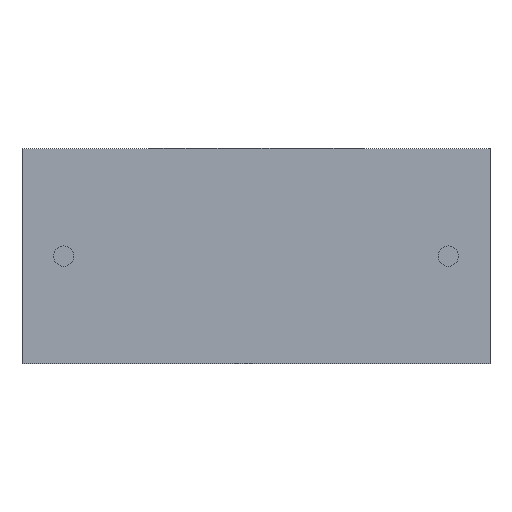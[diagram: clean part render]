
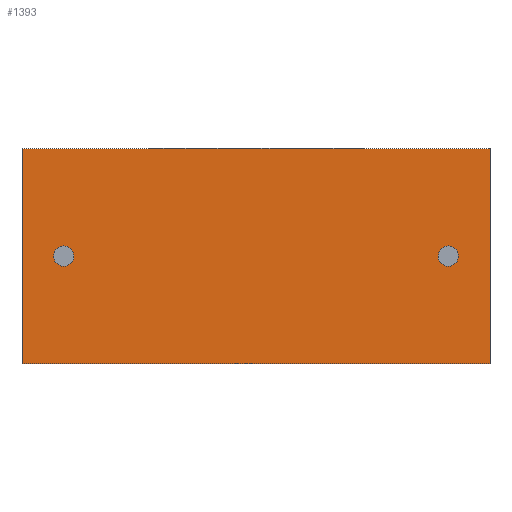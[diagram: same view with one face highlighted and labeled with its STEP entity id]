
A CAD part, front view. The second image highlights one B-rep face of the part: STEP entity #1393.
In plain terms, the highlighted planar face has unit normal (0, -1, 0).
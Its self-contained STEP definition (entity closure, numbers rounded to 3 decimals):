
#27 = DIRECTION ( 'NONE',  ( 0., 0., 1. ) ) ;
#50 = EDGE_LOOP ( 'NONE', ( #1909, #2413 ) ) ;
#65 = CARTESIAN_POINT ( 'NONE',  ( 1.65, 0., 4.25 ) ) ;
#69 = FACE_OUTER_BOUND ( 'NONE', #1485, .T. ) ;
#81 = CARTESIAN_POINT ( 'NONE',  ( 16.85, 0., 3.85 ) ) ;
#155 = CARTESIAN_POINT ( 'NONE',  ( 18.5, 0., 8.5 ) ) ;
#269 = CARTESIAN_POINT ( 'NONE',  ( 0., 0., 0. ) ) ;
#275 = CARTESIAN_POINT ( 'NONE',  ( 1.65, 0., 4.65 ) ) ;
#280 = CARTESIAN_POINT ( 'NONE',  ( 0., 0., 8.5 ) ) ;
#290 = CARTESIAN_POINT ( 'NONE',  ( 0., 0., 8.5 ) ) ;
#300 = VERTEX_POINT ( 'NONE', #290 ) ;
#306 = EDGE_CURVE ( 'NONE', #300, #802, #2412, .T. ) ;
#307 = DIRECTION ( 'NONE',  ( 0., -1., 0. ) ) ;
#362 = AXIS2_PLACEMENT_3D ( 'NONE', #1456, #307, #1105 ) ;
#436 = CARTESIAN_POINT ( 'NONE',  ( 16.85, 0., 4.25 ) ) ;
#437 = DIRECTION ( 'NONE',  ( 0., -1., 0. ) ) ;
#449 = CARTESIAN_POINT ( 'NONE',  ( 16.85, 0., 4.25 ) ) ;
#563 = ORIENTED_EDGE ( 'NONE', *, *, #1441, .F. ) ;
#567 = EDGE_CURVE ( 'NONE', #802, #935, #1873, .T. ) ;
#650 = CIRCLE ( 'NONE', #1901, 0.4 ) ;
#682 = EDGE_CURVE ( 'NONE', #1001, #1182, #1721, .T. ) ;
#802 = VERTEX_POINT ( 'NONE', #269 ) ;
#876 = FACE_BOUND ( 'NONE', #2385, .T. ) ;
#884 = ORIENTED_EDGE ( 'NONE', *, *, #1515, .F. ) ;
#886 = VECTOR ( 'NONE', #1361, 1000. ) ;
#916 = FACE_BOUND ( 'NONE', #50, .T. ) ;
#931 = DIRECTION ( 'NONE',  ( 0., 0., 1. ) ) ;
#935 = VERTEX_POINT ( 'NONE', #1493 ) ;
#939 = DIRECTION ( 'NONE',  ( 0., 0., -1. ) ) ;
#981 = CARTESIAN_POINT ( 'NONE',  ( 0., 0., 0. ) ) ;
#1001 = VERTEX_POINT ( 'NONE', #1067 ) ;
#1033 = DIRECTION ( 'NONE',  ( 1., 0., 0. ) ) ;
#1067 = CARTESIAN_POINT ( 'NONE',  ( 1.65, 0., 3.85 ) ) ;
#1076 = CIRCLE ( 'NONE', #2146, 0.4 ) ;
#1105 = DIRECTION ( 'NONE',  ( 0., 0., 1. ) ) ;
#1110 = ORIENTED_EDGE ( 'NONE', *, *, #2287, .F. ) ;
#1182 = VERTEX_POINT ( 'NONE', #275 ) ;
#1253 = DIRECTION ( 'NONE',  ( 0., 0., -1. ) ) ;
#1288 = VERTEX_POINT ( 'NONE', #1433 ) ;
#1289 = DIRECTION ( 'NONE',  ( 0., 1., 0. ) ) ;
#1350 = VECTOR ( 'NONE', #1421, 1000. ) ;
#1361 = DIRECTION ( 'NONE',  ( 1., 0., 0. ) ) ;
#1393 = ADVANCED_FACE ( 'NONE', ( #916, #69, #876 ), #2037, .F. ) ;
#1416 = DIRECTION ( 'NONE',  ( 0., 1., 0. ) ) ;
#1421 = DIRECTION ( 'NONE',  ( 0., 0., -1. ) ) ;
#1433 = CARTESIAN_POINT ( 'NONE',  ( 16.85, 0., 4.65 ) ) ;
#1441 = EDGE_CURVE ( 'NONE', #1182, #1001, #2092, .T. ) ;
#1456 = CARTESIAN_POINT ( 'NONE',  ( 1.65, 0., 4.25 ) ) ;
#1463 = VECTOR ( 'NONE', #1033, 1000. ) ;
#1485 = EDGE_LOOP ( 'NONE', ( #2180, #884, #1110, #2109 ) ) ;
#1493 = CARTESIAN_POINT ( 'NONE',  ( 18.5, 0., 0. ) ) ;
#1504 = LINE ( 'NONE', #2416, #2286 ) ;
#1509 = LINE ( 'NONE', #2130, #1463 ) ;
#1515 = EDGE_CURVE ( 'NONE', #1927, #935, #1504, .T. ) ;
#1521 = AXIS2_PLACEMENT_3D ( 'NONE', #1850, #1289, #931 ) ;
#1630 = EDGE_CURVE ( 'NONE', #2299, #1288, #650, .T. ) ;
#1721 = CIRCLE ( 'NONE', #2339, 0.4 ) ;
#1729 = EDGE_CURVE ( 'NONE', #1288, #2299, #1076, .T. ) ;
#1850 = CARTESIAN_POINT ( 'NONE',  ( 0., 0., 8.5 ) ) ;
#1873 = LINE ( 'NONE', #981, #886 ) ;
#1901 = AXIS2_PLACEMENT_3D ( 'NONE', #449, #2333, #2154 ) ;
#1909 = ORIENTED_EDGE ( 'NONE', *, *, #1729, .T. ) ;
#1927 = VERTEX_POINT ( 'NONE', #155 ) ;
#2037 = PLANE ( 'NONE',  #1521 ) ;
#2076 = ORIENTED_EDGE ( 'NONE', *, *, #682, .F. ) ;
#2092 = CIRCLE ( 'NONE', #362, 0.4 ) ;
#2109 = ORIENTED_EDGE ( 'NONE', *, *, #306, .T. ) ;
#2130 = CARTESIAN_POINT ( 'NONE',  ( 0., 0., 8.5 ) ) ;
#2146 = AXIS2_PLACEMENT_3D ( 'NONE', #436, #1416, #1253 ) ;
#2154 = DIRECTION ( 'NONE',  ( 0., 0., -1. ) ) ;
#2180 = ORIENTED_EDGE ( 'NONE', *, *, #567, .T. ) ;
#2286 = VECTOR ( 'NONE', #939, 1000. ) ;
#2287 = EDGE_CURVE ( 'NONE', #300, #1927, #1509, .T. ) ;
#2299 = VERTEX_POINT ( 'NONE', #81 ) ;
#2333 = DIRECTION ( 'NONE',  ( 0., 1., 0. ) ) ;
#2339 = AXIS2_PLACEMENT_3D ( 'NONE', #65, #437, #27 ) ;
#2385 = EDGE_LOOP ( 'NONE', ( #563, #2076 ) ) ;
#2412 = LINE ( 'NONE', #280, #1350 ) ;
#2413 = ORIENTED_EDGE ( 'NONE', *, *, #1630, .T. ) ;
#2416 = CARTESIAN_POINT ( 'NONE',  ( 18.5, 0., 8.5 ) ) ;
